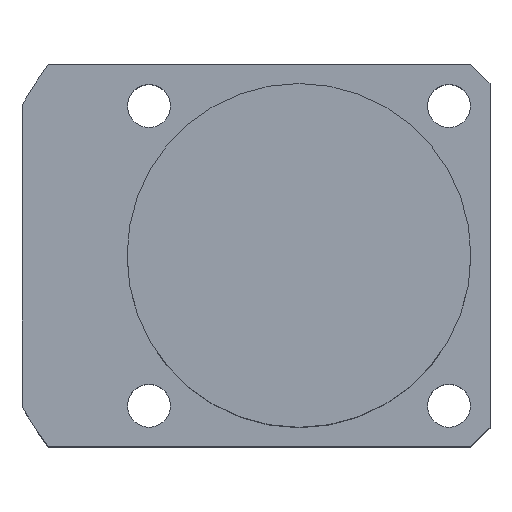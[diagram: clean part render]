
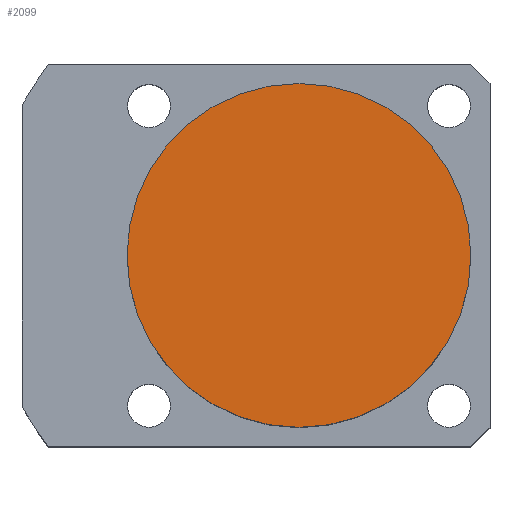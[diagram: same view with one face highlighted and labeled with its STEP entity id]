
A CAD part, top view. The second image highlights one B-rep face of the part: STEP entity #2099.
In plain terms, the highlighted planar face has unit normal (0, 0, 1).
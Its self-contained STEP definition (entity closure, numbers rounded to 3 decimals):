
#79 = FACE_OUTER_BOUND ( 'NONE', #338, .T. ) ;
#144 = VERTEX_POINT ( 'NONE', #1533 ) ;
#198 = VERTEX_POINT ( 'NONE', #840 ) ;
#253 = DIRECTION ( 'NONE',  ( 1., 0., 0. ) ) ;
#281 = EDGE_CURVE ( 'NONE', #198, #144, #791, .T. ) ;
#312 = AXIS2_PLACEMENT_3D ( 'NONE', #561, #724, #1893 ) ;
#338 = EDGE_LOOP ( 'NONE', ( #930, #375 ) ) ;
#343 = AXIS2_PLACEMENT_3D ( 'NONE', #943, #2083, #1939 ) ;
#370 = AXIS2_PLACEMENT_3D ( 'NONE', #749, #1911, #253 ) ;
#375 = ORIENTED_EDGE ( 'NONE', *, *, #1205, .T. ) ;
#561 = CARTESIAN_POINT ( 'NONE',  ( 0., 0., 33.5 ) ) ;
#724 = DIRECTION ( 'NONE',  ( 0., 0., 1. ) ) ;
#749 = CARTESIAN_POINT ( 'NONE',  ( 0., 0., 33.5 ) ) ;
#758 = PLANE ( 'NONE',  #370 ) ;
#791 = CIRCLE ( 'NONE', #343, 18. ) ;
#840 = CARTESIAN_POINT ( 'NONE',  ( -18., 0., 33.5 ) ) ;
#930 = ORIENTED_EDGE ( 'NONE', *, *, #281, .T. ) ;
#943 = CARTESIAN_POINT ( 'NONE',  ( 0., 0., 33.5 ) ) ;
#1205 = EDGE_CURVE ( 'NONE', #144, #198, #1809, .T. ) ;
#1533 = CARTESIAN_POINT ( 'NONE',  ( 18., 0., 33.5 ) ) ;
#1809 = CIRCLE ( 'NONE', #312, 18. ) ;
#1893 = DIRECTION ( 'NONE',  ( 1., 0., 0. ) ) ;
#1911 = DIRECTION ( 'NONE',  ( 0., 0., 1. ) ) ;
#1939 = DIRECTION ( 'NONE',  ( 1., 0., 0. ) ) ;
#2083 = DIRECTION ( 'NONE',  ( 0., 0., 1. ) ) ;
#2099 = ADVANCED_FACE ( 'NONE', ( #79 ), #758, .T. ) ;
